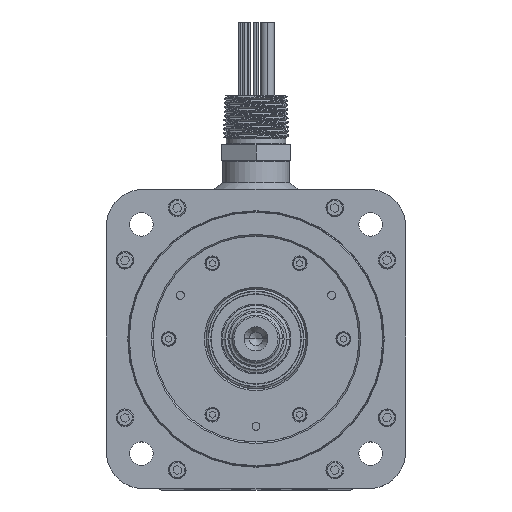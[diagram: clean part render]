
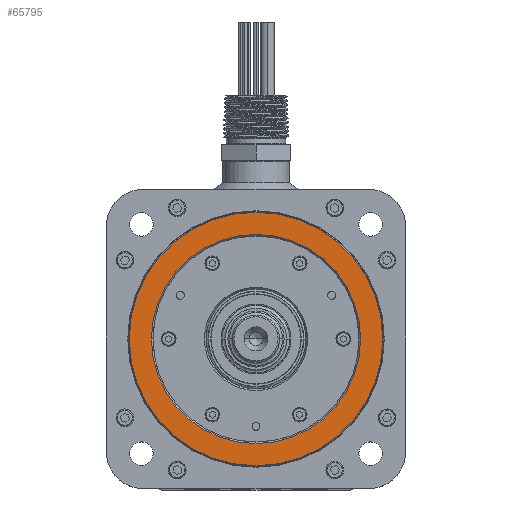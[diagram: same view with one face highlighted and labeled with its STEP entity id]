
A CAD part, top view. The second image highlights one B-rep face of the part: STEP entity #65795.
In plain terms, the highlighted planar face has unit normal (0, 0, 1).
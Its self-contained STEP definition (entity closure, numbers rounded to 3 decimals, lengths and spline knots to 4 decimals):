
#25 = CARTESIAN_POINT ( 'NONE',  ( 0., 0., 9.498 ) ) ;
#1064 = FACE_OUTER_BOUND ( 'NONE', #47923, .T. ) ;
#1806 = PLANE ( 'NONE',  #35740 ) ;
#1912 = VERTEX_POINT ( 'NONE', #71018 ) ;
#3374 = DIRECTION ( 'NONE',  ( 0., 0., -1. ) ) ;
#5053 = EDGE_CURVE ( 'NONE', #45690, #1912, #69309, .T. ) ;
#5527 = DIRECTION ( 'NONE',  ( 1., 0., 0. ) ) ;
#7076 = DIRECTION ( 'NONE',  ( 0., 0., 1. ) ) ;
#7299 = DIRECTION ( 'NONE',  ( 1., 0., 0. ) ) ;
#11382 = AXIS2_PLACEMENT_3D ( 'NONE', #17674, #56127, #23244 ) ;
#14556 = ORIENTED_EDGE ( 'NONE', *, *, #33292, .T. ) ;
#16405 = CIRCLE ( 'NONE', #41786, 2.0945 ) ;
#17162 = DIRECTION ( 'NONE',  ( 0., 0., -1. ) ) ;
#17674 = CARTESIAN_POINT ( 'NONE',  ( 0., 0., 9.498 ) ) ;
#19121 = EDGE_CURVE ( 'NONE', #62230, #29265, #38004, .T. ) ;
#19962 = CARTESIAN_POINT ( 'NONE',  ( -2.5391, 0., 9.498 ) ) ;
#23082 = ORIENTED_EDGE ( 'NONE', *, *, #32700, .T. ) ;
#23244 = DIRECTION ( 'NONE',  ( 1., 0., 0. ) ) ;
#24249 = ORIENTED_EDGE ( 'NONE', *, *, #19121, .T. ) ;
#25704 = EDGE_LOOP ( 'NONE', ( #67896, #14556 ) ) ;
#26809 = FACE_BOUND ( 'NONE', #25704, .T. ) ;
#29128 = CARTESIAN_POINT ( 'NONE',  ( 0., 2.0645, 9.498 ) ) ;
#29265 = VERTEX_POINT ( 'NONE', #44525 ) ;
#32700 = EDGE_CURVE ( 'NONE', #29265, #62230, #32814, .T. ) ;
#32814 = CIRCLE ( 'NONE', #11382, 2.5391 ) ;
#33292 = EDGE_CURVE ( 'NONE', #1912, #45690, #16405, .T. ) ;
#35740 = AXIS2_PLACEMENT_3D ( 'NONE', #29128, #7076, #7299 ) ;
#36223 = CARTESIAN_POINT ( 'NONE',  ( 0., 0., 9.498 ) ) ;
#38004 = CIRCLE ( 'NONE', #41490, 2.5391 ) ;
#38392 = DIRECTION ( 'NONE',  ( 0., 0., 1. ) ) ;
#41490 = AXIS2_PLACEMENT_3D ( 'NONE', #25, #38392, #5527 ) ;
#41746 = DIRECTION ( 'NONE',  ( 1., 0., 0. ) ) ;
#41786 = AXIS2_PLACEMENT_3D ( 'NONE', #36223, #3374, #41746 ) ;
#44525 = CARTESIAN_POINT ( 'NONE',  ( 2.5391, 0., 9.498 ) ) ;
#45690 = VERTEX_POINT ( 'NONE', #69848 ) ;
#47923 = EDGE_LOOP ( 'NONE', ( #24249, #23082 ) ) ;
#50047 = CARTESIAN_POINT ( 'NONE',  ( 0., 0., 9.498 ) ) ;
#53181 = AXIS2_PLACEMENT_3D ( 'NONE', #50047, #17162, #55606 ) ;
#55606 = DIRECTION ( 'NONE',  ( 1., 0., 0. ) ) ;
#56127 = DIRECTION ( 'NONE',  ( 0., 0., 1. ) ) ;
#62230 = VERTEX_POINT ( 'NONE', #19962 ) ;
#65795 = ADVANCED_FACE ( 'NONE', ( #1064, #26809 ), #1806, .T. ) ;
#67896 = ORIENTED_EDGE ( 'NONE', *, *, #5053, .T. ) ;
#69309 = CIRCLE ( 'NONE', #53181, 2.0945 ) ;
#69848 = CARTESIAN_POINT ( 'NONE',  ( 2.0945, 0., 9.498 ) ) ;
#71018 = CARTESIAN_POINT ( 'NONE',  ( -2.0945, 0., 9.498 ) ) ;
